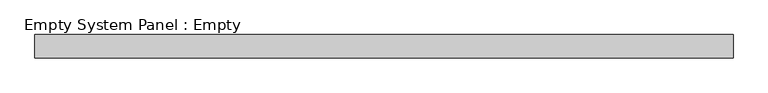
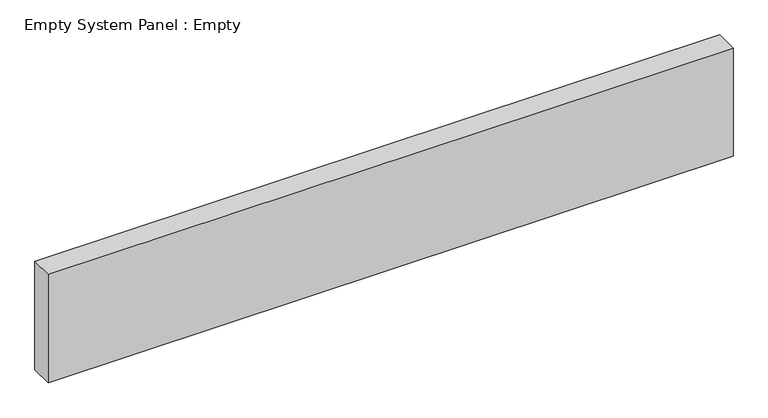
"""IFC4 building model written with IfcOpenShell, lengths in millimetres: plate geometry, Empty System Panel : Empty."""

import ifcopenshell
import ifcopenshell.guid

model = None  # the IFC model being written
_history = None  # IfcOwnerHistory: only IFC2X3 demands one
_inside = {}  # id of a spatial element -> (the spatial element, [elements in it])
_under = {}  # id of a project, library or spatial element -> (it, [spatial elements below it])
_declared = {}  # id of a project -> (the project, [libraries it declares])
_typed = {}  # id of a type object -> (the type object, [elements of that type])
_made_of = {}  # id of a material, layer set ... -> (it, [elements and type objects made of it])


def new_model(schema):
    """Start an empty IFC model of exactly this schema.

    Asked for "IFC4X3", IfcOpenShell would pick the latest addendum, in which some entities
    have other attributes; the version numbers below select the first issue.
    IFC2X3 requires an IfcOwnerHistory on every rooted entity: one is made here for all.
    """
    global model, _history
    if schema == "IFC4X3":
        model = ifcopenshell.file(schema_version=(4, 3, 0, 0))
    else:
        model = ifcopenshell.file(schema=schema)
    _inside.clear()
    _under.clear()
    _declared.clear()
    _typed.clear()
    _made_of.clear()
    _history = None
    if model.schema == "IFC2X3":
        org = make("IfcOrganization", Name="unknown")
        user = make(
            "IfcPersonAndOrganization",
            ThePerson=make("IfcPerson", FamilyName="unknown"),
            TheOrganization=org,
        )
        app = make(
            "IfcApplication",
            ApplicationDeveloper=org,
            Version="unknown",
            ApplicationFullName="unknown",
            ApplicationIdentifier="unknown",
        )
        _history = make(
            "IfcOwnerHistory",
            OwningUser=user,
            OwningApplication=app,
            ChangeAction="ADDED",
            CreationDate=0,
        )
    return model


def make(cls, **values):
    """One entity of the class cls with the attributes given. An attribute that is None is left unset."""
    return model.create_entity(
        cls, **{name: value for name, value in values.items() if value is not None}
    )


def rooted(cls, **values):
    """An entity with a GlobalId (a new one), such as an element, a storey or a relation."""
    return make(cls, GlobalId=ifcopenshell.guid.new(), OwnerHistory=_history, **values)


def si_unit(unit_type, name, prefix=None):
    """IfcSIUnit, for example si_unit("LENGTHUNIT", "METRE", prefix="MILLI")."""
    return make("IfcSIUnit", UnitType=unit_type, Prefix=prefix, Name=name)


def assignment(units):
    """IfcUnitAssignment: the units of a project."""
    return None if units is None else make("IfcUnitAssignment", Units=units)


def point(xyz):
    """IfcCartesianPoint."""
    return None if xyz is None else make("IfcCartesianPoint", Coordinates=xyz)


def direction(xyz):
    """IfcDirection."""
    return None if xyz is None else make("IfcDirection", DirectionRatios=xyz)


def frame(location, z_axis=None, x_axis=None):
    """IfcAxis2Placement3D, a coordinate frame: its origin and axes. An axis left out is left unset."""
    return make(
        "IfcAxis2Placement3D",
        Location=point(location),
        Axis=direction(z_axis),
        RefDirection=direction(x_axis),
    )


def origin():
    """The frame at (0, 0, 0) with its axes left unset."""
    return frame((0.0, 0.0, 0.0))


def origin_with_axes():
    """The frame at (0, 0, 0) with the z axis (0, 0, 1) and the x axis (1, 0, 0) written out."""
    return frame((0.0, 0.0, 0.0), z_axis=(0.0, 0.0, 1.0), x_axis=(1.0, 0.0, 0.0))


def place(relative_to, where):
    """IfcLocalPlacement: puts the frame where relative to a parent placement (None: the world)."""
    return make(
        "IfcLocalPlacement", PlacementRelTo=relative_to, RelativePlacement=where
    )


def context(
    kind, dimensions, precision=None, world=None, true_north=None, identifier=None
):
    """IfcGeometricRepresentationContext, for example the 3D "Model" context."""
    return make(
        "IfcGeometricRepresentationContext",
        ContextIdentifier=identifier,
        ContextType=kind,
        CoordinateSpaceDimension=dimensions,
        Precision=precision,
        WorldCoordinateSystem=world,
        TrueNorth=true_north,
    )


def project(units=None, contexts=None):
    """IfcProject with its units and contexts."""
    return rooted(
        "IfcProject",
        Name="project",
        RepresentationContexts=contexts,
        UnitsInContext=assignment(units),
    )


def spatial(cls, under=None, at=None, **own):
    """A site, building, storey or space (cls), placed at a placement, below another one or the project."""
    s = rooted(cls, ObjectPlacement=at, **own)
    if under is not None:
        _under.setdefault(under.id(), (under, []))[1].append(s)
    return s


def polyline(points):
    """IfcPolyline through the points."""
    return make("IfcPolyline", Points=[point(p) for p in points])


def outline(outer, holes=None, kind="AREA"):
    """IfcArbitraryClosedProfileDef: a profile drawn as a closed curve; with holes, ...WithVoids."""
    if holes is None:
        return make("IfcArbitraryClosedProfileDef", ProfileType=kind, OuterCurve=outer)
    return make(
        "IfcArbitraryProfileDefWithVoids",
        ProfileType=kind,
        OuterCurve=outer,
        InnerCurves=holes,
    )


def extrude(swept, where, along, depth):
    """IfcExtrudedAreaSolid: the profile swept, set in the frame where, extruded along a direction by depth."""
    return make(
        "IfcExtrudedAreaSolid",
        SweptArea=swept,
        Position=where,
        ExtrudedDirection=direction(along),
        Depth=depth,
    )


def shape(context_of_items, identifier, shape_type, items):
    """IfcShapeRepresentation: the items that make up one representation, for example the "Body"."""
    return make(
        "IfcShapeRepresentation",
        ContextOfItems=context_of_items,
        RepresentationIdentifier=identifier,
        RepresentationType=shape_type,
        Items=items,
    )


def source(mapping_origin, context_of_items, identifier, shape_type, items):
    """IfcRepresentationMap: a shape defined once, which mapped items show again and again."""
    return make(
        "IfcRepresentationMap",
        MappingOrigin=mapping_origin,
        MappedRepresentation=shape(context_of_items, identifier, shape_type, items),
    )


def transform(
    local_origin,
    x_axis=None,
    y_axis=None,
    z_axis=None,
    scale=None,
    scale2=None,
    scale3=None,
    uniform=True,
):
    """IfcCartesianTransformationOperator3D, or its non-uniform kind. x_axis, y_axis, z_axis: its Axis1, 2, 3."""
    if uniform:
        return make(
            "IfcCartesianTransformationOperator3D",
            Axis1=direction(x_axis),
            Axis2=direction(y_axis),
            LocalOrigin=point(local_origin),
            Scale=scale,
            Axis3=direction(z_axis),
        )
    return make(
        "IfcCartesianTransformationOperator3DnonUniform",
        Axis1=direction(x_axis),
        Axis2=direction(y_axis),
        LocalOrigin=point(local_origin),
        Scale=scale,
        Axis3=direction(z_axis),
        Scale2=scale2,
        Scale3=scale3,
    )


def mapped(mapping_source, mapping_target):
    """IfcMappedItem: shows the shape of a source again, moved by a transform."""
    return make(
        "IfcMappedItem", MappingSource=mapping_source, MappingTarget=mapping_target
    )


def made_of(thing, what):
    """Note that an element or type object is made of a material, layer set ...; save() writes the relation."""
    if what is not None:
        _made_of.setdefault(what.id(), (what, []))[1].append(thing)
    return thing


def element(
    cls,
    number,
    at=None,
    inside=None,
    cuts=None,
    type_object=None,
    material=None,
    context=None,
    identifier="Body",
    shape_type=None,
    held_by="IfcProductDefinitionShape",
    body=None,
    shapes=None,
    **own,
):
    """One element of the class cls, such as IfcWall. Its Tag is "e" and its number.

    at: its placement. inside: the storey or other place that contains it. cuts: it is an
    opening in that element (IfcRelVoidsElement). A single representation is given by context,
    identifier, shape_type and body (its items); several are given by shapes. held_by: the class
    of the entity that holds the representations. save() writes the other relations.
    """
    e = rooted(cls, Tag="e%d" % number, ObjectPlacement=at, **own)
    if body is not None:
        shapes = [shape(context, identifier, shape_type, body)]
    if shapes is not None:
        e.Representation = make(held_by, Representations=shapes)
    if inside is not None:
        _inside.setdefault(inside.id(), (inside, []))[1].append(e)
    if cuts is not None:
        rooted(
            "IfcRelVoidsElement", RelatingBuildingElement=cuts, RelatedOpeningElement=e
        )
    if type_object is not None:
        _typed.setdefault(type_object.id(), (type_object, []))[1].append(e)
    return made_of(e, material)


def aggregate(whole, parts):
    """IfcRelAggregates: a whole, such as a stair, and the parts it consists of."""
    return rooted("IfcRelAggregates", RelatingObject=whole, RelatedObjects=parts)


def save(model, path):
    """Write the relations noted so far, then the file.

    IfcRelAggregates (storeys below a building ...), IfcRelContainedInSpatialStructure (elements
    in a storey), IfcRelDefinesByType, IfcRelAssociatesMaterial and IfcRelDeclares: one each for
    every whole, place, type object, material and project.
    """
    for whole, parts in _under.values():
        aggregate(whole, parts)
    for where, things in _inside.values():
        rooted(
            "IfcRelContainedInSpatialStructure",
            RelatedElements=things,
            RelatingStructure=where,
        )
    for kind, things in _typed.values():
        rooted("IfcRelDefinesByType", RelatedObjects=things, RelatingType=kind)
    for what, things in _made_of.values():
        rooted("IfcRelAssociatesMaterial", RelatedObjects=things, RelatingMaterial=what)
    for by, libraries in _declared.values():
        rooted("IfcRelDeclares", RelatingContext=by, RelatedDefinitions=libraries)
    model.write(path)


def empty_system_panel_empty_d83849b1(model_context):
    return source(origin(), model_context, "Body", "SweptSolid", [
        extrude(outline(polyline([(1500.0, -50.0), (-1500.0, -50.0), (-1500.0, 50.0), (1500.0, 50.0), (1500.0, -50.0)])), origin_with_axes(), (0.0, 0.0, 1.0), 501.7624099),
    ])


if __name__ == "__main__":
    model = new_model("IFC4")
    model_context = context("Model", 3, world=origin())
    ifc_project = project(units=[si_unit("LENGTHUNIT", "METRE", prefix="MILLI")], contexts=[model_context])
    site = spatial("IfcSite", under=ifc_project)
    building = spatial("IfcBuilding", under=site)
    placement = place(None, origin())
    empty_system_panel_empty_shape = empty_system_panel_empty_d83849b1(model_context)
    element("IfcPlate", 1, ObjectType="Empty System Panel : Empty", at=placement, inside=building, context=model_context, shape_type="MappedRepresentation", body=[
        mapped(empty_system_panel_empty_shape, transform((0.0, 0.0, 0.0), x_axis=(1.0, 0.0, 0.0), y_axis=(0.0, 1.0, 0.0), z_axis=(0.0, 0.0, 1.0))),
    ])
    save(model, "model.ifc")
